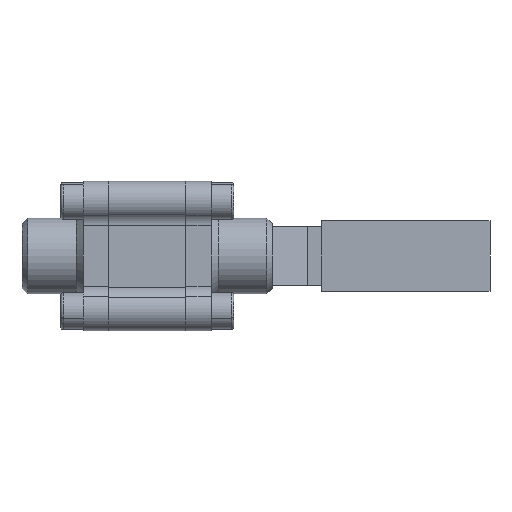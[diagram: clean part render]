
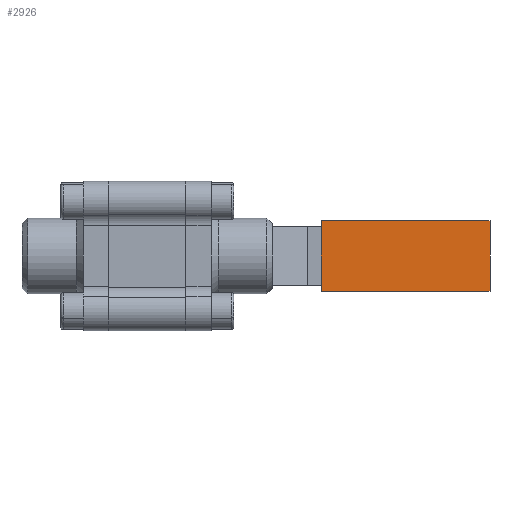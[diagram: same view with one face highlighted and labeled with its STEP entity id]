
A CAD part, front view. The second image highlights one B-rep face of the part: STEP entity #2926.
In plain terms, the highlighted planar face has unit normal (0, -1, 0).
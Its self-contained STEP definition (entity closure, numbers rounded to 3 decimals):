
#299 = CARTESIAN_POINT ( 'NONE',  ( 121.958, 14.3, -12.5 ) ) ;
#307 = PLANE ( 'NONE',  #649 ) ;
#319 = DIRECTION ( 'NONE',  ( 0., -1., 0. ) ) ;
#320 = DIRECTION ( 'NONE',  ( 1., 0., 0. ) ) ;
#649 = AXIS2_PLACEMENT_3D ( 'NONE', #299, #319, #320 ) ;
#1672 = FACE_OUTER_BOUND ( 'NONE', #4313, .T. ) ;
#2348 = LINE ( 'NONE', #6939, #2393 ) ;
#2377 = LINE ( 'NONE', #6935, #2387 ) ;
#2378 = LINE ( 'NONE', #6931, #2383 ) ;
#2383 = VECTOR ( 'NONE', #6936, 1000. ) ;
#2387 = VECTOR ( 'NONE', #6940, 1000. ) ;
#2393 = VECTOR ( 'NONE', #6947, 1000. ) ;
#2396 = LINE ( 'NONE', #6943, #2400 ) ;
#2400 = VECTOR ( 'NONE', #6956, 1000. ) ;
#2926 = ADVANCED_FACE ( 'NONE', ( #1672 ), #307, .T. ) ;
#3368 = VERTEX_POINT ( 'NONE', #6266 ) ;
#3371 = VERTEX_POINT ( 'NONE', #6269 ) ;
#3373 = VERTEX_POINT ( 'NONE', #6271 ) ;
#3375 = VERTEX_POINT ( 'NONE', #6273 ) ;
#4313 = EDGE_LOOP ( 'NONE', ( #5094, #5095, #5096, #5097 ) ) ;
#4627 = EDGE_CURVE ( 'NONE', #3371, #3368, #2378, .T. ) ;
#4629 = EDGE_CURVE ( 'NONE', #3373, #3371, #2377, .T. ) ;
#4632 = EDGE_CURVE ( 'NONE', #3375, #3373, #2348, .T. ) ;
#4636 = EDGE_CURVE ( 'NONE', #3368, #3375, #2396, .T. ) ;
#5094 = ORIENTED_EDGE ( 'NONE', *, *, #4636, .F. ) ;
#5095 = ORIENTED_EDGE ( 'NONE', *, *, #4627, .F. ) ;
#5096 = ORIENTED_EDGE ( 'NONE', *, *, #4629, .F. ) ;
#5097 = ORIENTED_EDGE ( 'NONE', *, *, #4632, .F. ) ;
#6266 = CARTESIAN_POINT ( 'NONE',  ( 121.958, 14.3, 12.5 ) ) ;
#6269 = CARTESIAN_POINT ( 'NONE',  ( 61.958, 14.3, 12.5 ) ) ;
#6271 = CARTESIAN_POINT ( 'NONE',  ( 61.958, 14.3, -12.5 ) ) ;
#6273 = CARTESIAN_POINT ( 'NONE',  ( 121.958, 14.3, -12.5 ) ) ;
#6931 = CARTESIAN_POINT ( 'NONE',  ( 61.958, 14.3, 12.5 ) ) ;
#6935 = CARTESIAN_POINT ( 'NONE',  ( 61.958, 14.3, 12.5 ) ) ;
#6936 = DIRECTION ( 'NONE',  ( 1., 0., 0. ) ) ;
#6939 = CARTESIAN_POINT ( 'NONE',  ( 61.958, 14.3, -12.5 ) ) ;
#6940 = DIRECTION ( 'NONE',  ( 0., 0., 1. ) ) ;
#6943 = CARTESIAN_POINT ( 'NONE',  ( 121.958, 14.3, 12.5 ) ) ;
#6947 = DIRECTION ( 'NONE',  ( -1., 0., 0. ) ) ;
#6956 = DIRECTION ( 'NONE',  ( 0., 0., -1. ) ) ;
